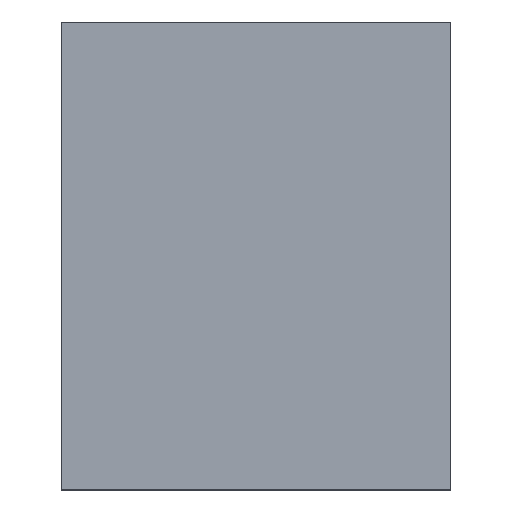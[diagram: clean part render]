
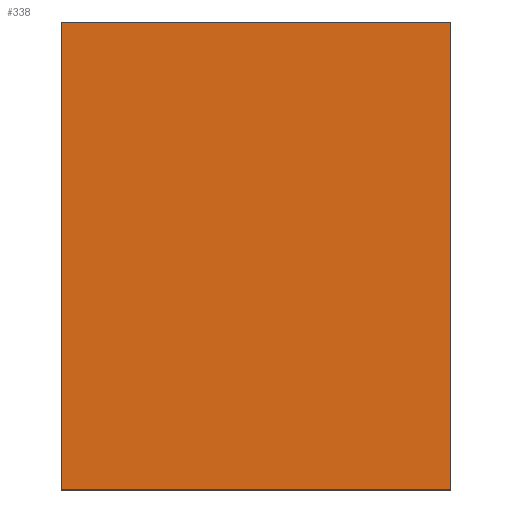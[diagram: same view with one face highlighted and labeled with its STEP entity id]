
A CAD part, top view. The second image highlights one B-rep face of the part: STEP entity #338.
In plain terms, the highlighted planar face has unit normal (0, 0, 1).
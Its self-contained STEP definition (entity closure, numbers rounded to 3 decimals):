
#24 = VERTEX_POINT('',#25);
#25 = CARTESIAN_POINT('',(100.,-120.,12.));
#32 = PLANE('',#33);
#33 = AXIS2_PLACEMENT_3D('',#34,#35,#36);
#34 = CARTESIAN_POINT('',(100.,-120.,0.));
#35 = DIRECTION('',(-0.,1.,-0.));
#36 = DIRECTION('',(1.,0.,0.));
#44 = PLANE('',#45);
#45 = AXIS2_PLACEMENT_3D('',#46,#47,#48);
#46 = CARTESIAN_POINT('',(100.,120.,0.));
#47 = DIRECTION('',(-1.,-0.,-0.));
#48 = DIRECTION('',(0.,1.,0.));
#56 = EDGE_CURVE('',#24,#57,#59,.T.);
#57 = VERTEX_POINT('',#58);
#58 = CARTESIAN_POINT('',(-100.,-120.,12.));
#59 = SURFACE_CURVE('',#60,(#64,#71),.PCURVE_S1.);
#60 = LINE('',#61,#62);
#61 = CARTESIAN_POINT('',(100.,-120.,12.));
#62 = VECTOR('',#63,1.);
#63 = DIRECTION('',(-1.,-0.,-0.));
#64 = PCURVE('',#32,#65);
#65 = DEFINITIONAL_REPRESENTATION('',(#66),#70);
#66 = LINE('',#67,#68);
#67 = CARTESIAN_POINT('',(-0.,-12.));
#68 = VECTOR('',#69,1.);
#69 = DIRECTION('',(-1.,0.));
#70 = ( GEOMETRIC_REPRESENTATION_CONTEXT(2) 
PARAMETRIC_REPRESENTATION_CONTEXT() REPRESENTATION_CONTEXT('2D SPACE',''
  ) );
#71 = PCURVE('',#72,#77);
#72 = PLANE('',#73);
#73 = AXIS2_PLACEMENT_3D('',#74,#75,#76);
#74 = CARTESIAN_POINT('',(0.,0.,12.));
#75 = DIRECTION('',(-0.,-0.,1.));
#76 = DIRECTION('',(1.,0.,0.));
#77 = DEFINITIONAL_REPRESENTATION('',(#78),#82);
#78 = LINE('',#79,#80);
#79 = CARTESIAN_POINT('',(100.,-120.));
#80 = VECTOR('',#81,1.);
#81 = DIRECTION('',(-1.,0.));
#82 = ( GEOMETRIC_REPRESENTATION_CONTEXT(2) 
PARAMETRIC_REPRESENTATION_CONTEXT() REPRESENTATION_CONTEXT('2D SPACE',''
  ) );
#100 = PLANE('',#101);
#101 = AXIS2_PLACEMENT_3D('',#102,#103,#104);
#102 = CARTESIAN_POINT('',(-100.,-120.,0.));
#103 = DIRECTION('',(1.,-0.,-0.));
#104 = DIRECTION('',(0.,-1.,0.));
#142 = EDGE_CURVE('',#57,#143,#145,.T.);
#143 = VERTEX_POINT('',#144);
#144 = CARTESIAN_POINT('',(-100.,120.,12.));
#145 = SURFACE_CURVE('',#146,(#150,#157),.PCURVE_S1.);
#146 = LINE('',#147,#148);
#147 = CARTESIAN_POINT('',(-100.,-120.,12.));
#148 = VECTOR('',#149,1.);
#149 = DIRECTION('',(-0.,1.,-0.));
#150 = PCURVE('',#100,#151);
#151 = DEFINITIONAL_REPRESENTATION('',(#152),#156);
#152 = LINE('',#153,#154);
#153 = CARTESIAN_POINT('',(-0.,-12.));
#154 = VECTOR('',#155,1.);
#155 = DIRECTION('',(-1.,0.));
#156 = ( GEOMETRIC_REPRESENTATION_CONTEXT(2) 
PARAMETRIC_REPRESENTATION_CONTEXT() REPRESENTATION_CONTEXT('2D SPACE',''
  ) );
#157 = PCURVE('',#72,#158);
#158 = DEFINITIONAL_REPRESENTATION('',(#159),#163);
#159 = LINE('',#160,#161);
#160 = CARTESIAN_POINT('',(-100.,-120.));
#161 = VECTOR('',#162,1.);
#162 = DIRECTION('',(-0.,1.));
#163 = ( GEOMETRIC_REPRESENTATION_CONTEXT(2) 
PARAMETRIC_REPRESENTATION_CONTEXT() REPRESENTATION_CONTEXT('2D SPACE',''
  ) );
#181 = PLANE('',#182);
#182 = AXIS2_PLACEMENT_3D('',#183,#184,#185);
#183 = CARTESIAN_POINT('',(-100.,120.,0.));
#184 = DIRECTION('',(-0.,-1.,-0.));
#185 = DIRECTION('',(-1.,0.,0.));
#218 = EDGE_CURVE('',#143,#219,#221,.T.);
#219 = VERTEX_POINT('',#220);
#220 = CARTESIAN_POINT('',(100.,120.,12.));
#221 = SURFACE_CURVE('',#222,(#226,#233),.PCURVE_S1.);
#222 = LINE('',#223,#224);
#223 = CARTESIAN_POINT('',(-100.,120.,12.));
#224 = VECTOR('',#225,1.);
#225 = DIRECTION('',(1.,-0.,-0.));
#226 = PCURVE('',#181,#227);
#227 = DEFINITIONAL_REPRESENTATION('',(#228),#232);
#228 = LINE('',#229,#230);
#229 = CARTESIAN_POINT('',(-0.,-12.));
#230 = VECTOR('',#231,1.);
#231 = DIRECTION('',(-1.,0.));
#232 = ( GEOMETRIC_REPRESENTATION_CONTEXT(2) 
PARAMETRIC_REPRESENTATION_CONTEXT() REPRESENTATION_CONTEXT('2D SPACE',''
  ) );
#233 = PCURVE('',#72,#234);
#234 = DEFINITIONAL_REPRESENTATION('',(#235),#239);
#235 = LINE('',#236,#237);
#236 = CARTESIAN_POINT('',(-100.,120.));
#237 = VECTOR('',#238,1.);
#238 = DIRECTION('',(1.,-0.));
#239 = ( GEOMETRIC_REPRESENTATION_CONTEXT(2) 
PARAMETRIC_REPRESENTATION_CONTEXT() REPRESENTATION_CONTEXT('2D SPACE',''
  ) );
#289 = EDGE_CURVE('',#219,#24,#290,.T.);
#290 = SURFACE_CURVE('',#291,(#295,#302),.PCURVE_S1.);
#291 = LINE('',#292,#293);
#292 = CARTESIAN_POINT('',(100.,120.,12.));
#293 = VECTOR('',#294,1.);
#294 = DIRECTION('',(-0.,-1.,-0.));
#295 = PCURVE('',#44,#296);
#296 = DEFINITIONAL_REPRESENTATION('',(#297),#301);
#297 = LINE('',#298,#299);
#298 = CARTESIAN_POINT('',(-0.,-12.));
#299 = VECTOR('',#300,1.);
#300 = DIRECTION('',(-1.,0.));
#301 = ( GEOMETRIC_REPRESENTATION_CONTEXT(2) 
PARAMETRIC_REPRESENTATION_CONTEXT() REPRESENTATION_CONTEXT('2D SPACE',''
  ) );
#302 = PCURVE('',#72,#303);
#303 = DEFINITIONAL_REPRESENTATION('',(#304),#308);
#304 = LINE('',#305,#306);
#305 = CARTESIAN_POINT('',(100.,120.));
#306 = VECTOR('',#307,1.);
#307 = DIRECTION('',(-0.,-1.));
#308 = ( GEOMETRIC_REPRESENTATION_CONTEXT(2) 
PARAMETRIC_REPRESENTATION_CONTEXT() REPRESENTATION_CONTEXT('2D SPACE',''
  ) );
#338 = ADVANCED_FACE('',(#339),#72,.T.);
#339 = FACE_BOUND('',#340,.F.);
#340 = EDGE_LOOP('',(#341,#342,#343,#344));
#341 = ORIENTED_EDGE('',*,*,#56,.T.);
#342 = ORIENTED_EDGE('',*,*,#142,.T.);
#343 = ORIENTED_EDGE('',*,*,#218,.T.);
#344 = ORIENTED_EDGE('',*,*,#289,.T.);
